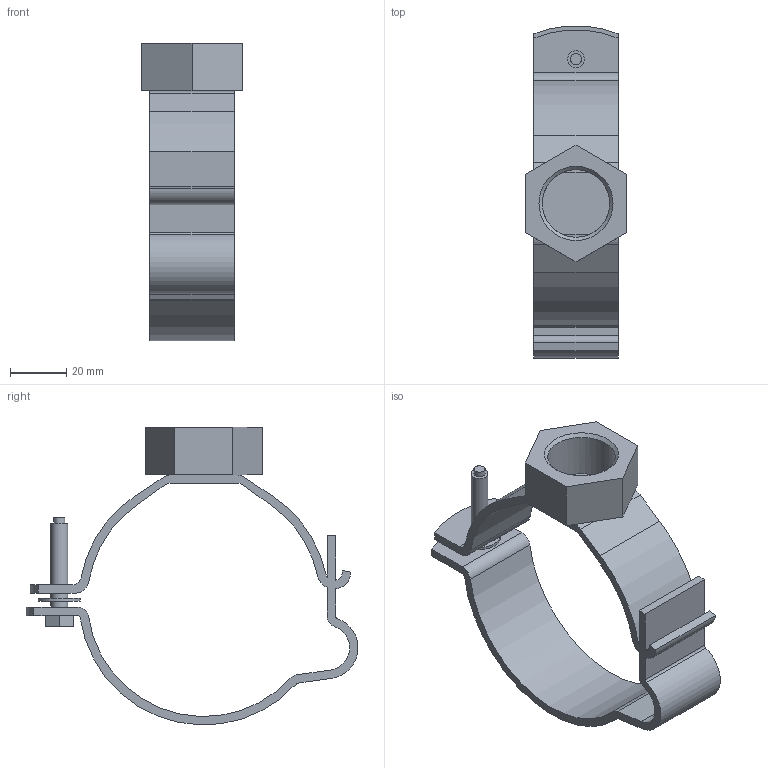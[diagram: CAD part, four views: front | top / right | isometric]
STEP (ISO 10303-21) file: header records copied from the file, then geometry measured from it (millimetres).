
FILE_DESCRIPTION( ( 'STEP AP214' ), '1' );
FILE_NAME( 'C:/Users/ilukic/Documents/ex/gebaudeentwasserung/pe/pipe bracket G3_4 adjustable/365842.stp', '2020-03-26T18:42:07', ( '' ), ( '' ), ' ', 'PARTsolutions', ' ' );
FILE_SCHEMA( ( 'AUTOMOTIVE_DESIGN { 1 0 10303 214 1 1 1 1 }' ) );
Length unit declared in the file: millimetre
Products named in the file (1): _365842
Bounding box: 36 x 118.36 x 106.17 mm (x, y, z)
Volume: 42966.1 mm3; surface area: 27743.5 mm2
Topology: 1 solids, 1 shells, 72 faces, 197 edges, 130 vertices
Faces by surface type: plane 39, cylinder 32, cone 1
Full cylindrical faces by diameter (mm): 4 x1, 6 x3, 15 x1, 24.117 x1
Entity records: 2848 total; most frequent: DIRECTION 402, CARTESIAN_POINT 389, ORIENTED_EDGE 376, EDGE_CURVE 188, AXIS2_PLACEMENT_3D 141, VERTEX_POINT 128, LINE 120, VECTOR 120
